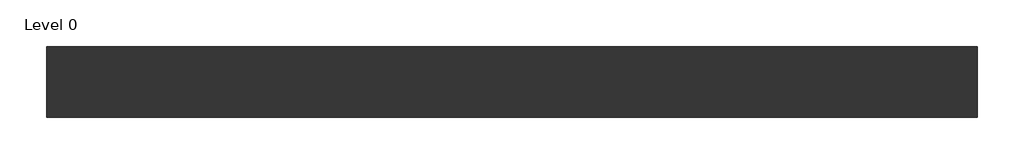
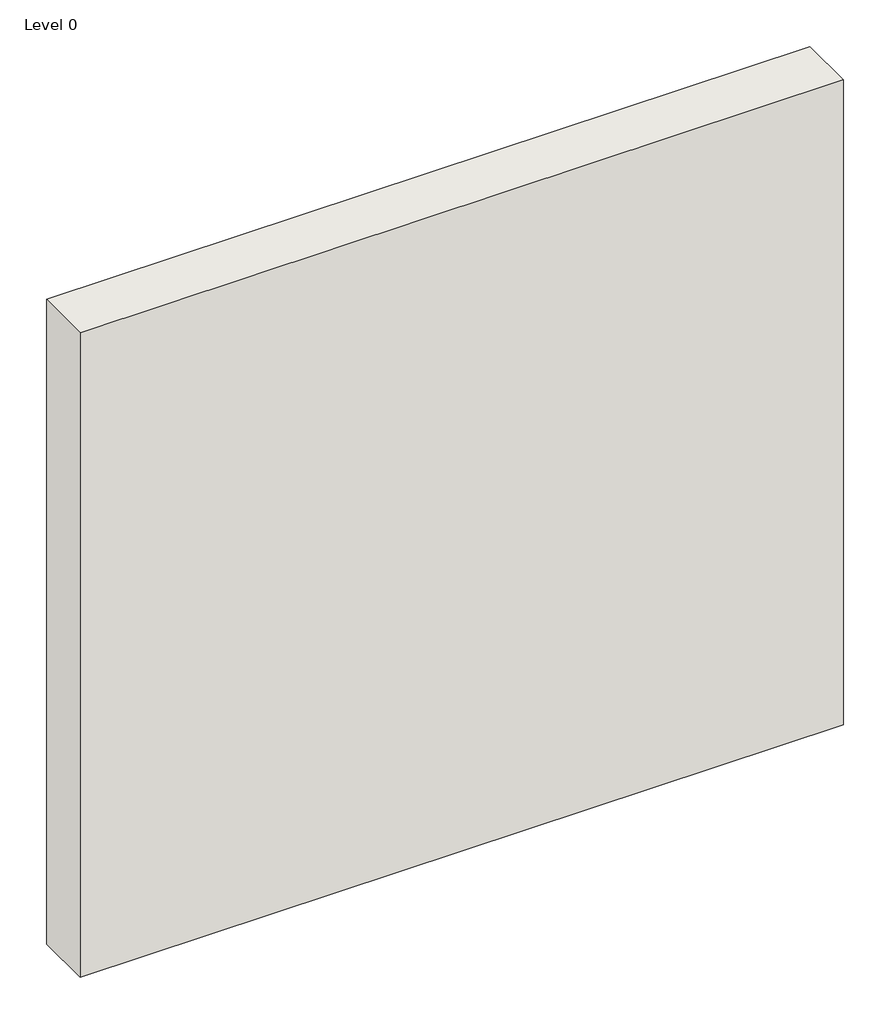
# One storey: 1 wall.
"""IFC4 building model written with IfcOpenShell, lengths in millimetres."""

from ifc_helpers import new_model, si_unit, origin, origin_with_axes, place, context, project, spatial, polyline, outline, extrude, element, save

model = new_model("IFC4")

# Units and contexts
model_context = context("Model", 3, world=origin())
ifc_project = project(units=[si_unit("LENGTHUNIT", "METRE", prefix="MILLI")], contexts=[model_context])

# Site, building, storey
site = spatial("IfcSite", under=ifc_project)
building = spatial("IfcBuilding", under=site)
storey = spatial("IfcBuildingStorey", under=building, Name="Level 0", Elevation=0.0)

# Wall
placement = place(None, origin())
element("IfcWall", 1, ObjectType="A316016 - GypWall QUIET SF", at=placement, inside=storey, context=model_context, shape_type="SweptSolid", body=[
    extrude(outline(polyline([(1916.0807354, 487.2205641), (-883.9192646, 487.2205641), (-883.9192646, 700.2205641), (1916.0807354, 700.2205641), (1916.0807354, 487.2205641)])), origin_with_axes(), (0.0, 0.0, 1.0), 2500.0),
])

save(model, "model.ifc")
